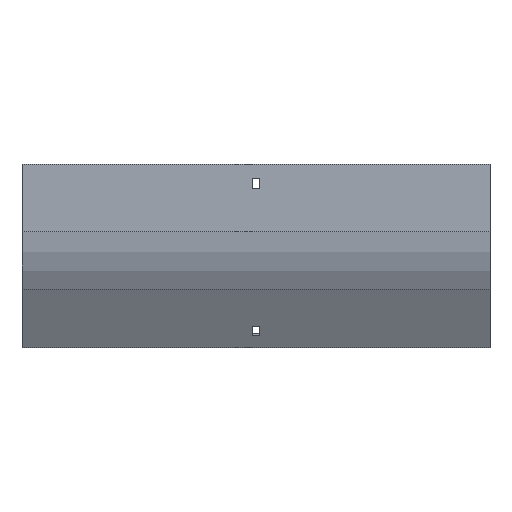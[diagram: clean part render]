
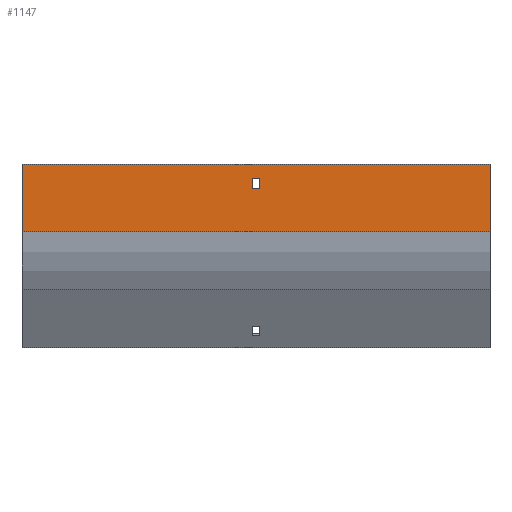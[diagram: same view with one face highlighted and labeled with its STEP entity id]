
A CAD part, front view. The second image highlights one B-rep face of the part: STEP entity #1147.
In plain terms, the highlighted planar face has unit normal (0, -1, 0).
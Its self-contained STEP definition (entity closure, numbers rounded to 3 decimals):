
#16 = DIRECTION ( 'NONE',  ( 0., 0., -1. ) ) ;
#23 = VERTEX_POINT ( 'NONE', #1641 ) ;
#24 = DIRECTION ( 'NONE',  ( 0., 1., 0. ) ) ;
#29 = CARTESIAN_POINT ( 'NONE',  ( -202., -104., -57.867 ) ) ;
#113 = LINE ( 'NONE', #1600, #847 ) ;
#115 = VERTEX_POINT ( 'NONE', #711 ) ;
#140 = VERTEX_POINT ( 'NONE', #1914 ) ;
#142 = DIRECTION ( 'NONE',  ( 1., 0., 0. ) ) ;
#171 = VECTOR ( 'NONE', #142, 1000. ) ;
#195 = VECTOR ( 'NONE', #1918, 1000. ) ;
#224 = DIRECTION ( 'NONE',  ( -1., 0., 0. ) ) ;
#269 = LINE ( 'NONE', #1289, #1802 ) ;
#284 = VERTEX_POINT ( 'NONE', #1084 ) ;
#305 = CARTESIAN_POINT ( 'NONE',  ( 202., -104., -57.867 ) ) ;
#311 = DIRECTION ( 'NONE',  ( 0., 0., 1. ) ) ;
#319 = LINE ( 'NONE', #1932, #609 ) ;
#343 = LINE ( 'NONE', #1495, #171 ) ;
#415 = VECTOR ( 'NONE', #1018, 1000. ) ;
#431 = CARTESIAN_POINT ( 'NONE',  ( 202., -104., 0. ) ) ;
#509 = ORIENTED_EDGE ( 'NONE', *, *, #781, .T. ) ;
#519 = VECTOR ( 'NONE', #16, 1000. ) ;
#551 = EDGE_CURVE ( 'NONE', #115, #23, #1749, .T. ) ;
#595 = DIRECTION ( 'NONE',  ( 0., 0., 1. ) ) ;
#609 = VECTOR ( 'NONE', #311, 1000. ) ;
#628 = VERTEX_POINT ( 'NONE', #846 ) ;
#654 = EDGE_CURVE ( 'NONE', #115, #1280, #1379, .T. ) ;
#711 = CARTESIAN_POINT ( 'NONE',  ( 202., -104., 0. ) ) ;
#747 = EDGE_LOOP ( 'NONE', ( #1149, #1179, #1635, #1421 ) ) ;
#781 = EDGE_CURVE ( 'NONE', #140, #628, #343, .T. ) ;
#788 = AXIS2_PLACEMENT_3D ( 'NONE', #1659, #24, #595 ) ;
#836 = CARTESIAN_POINT ( 'NONE',  ( 3.25, -104., -21. ) ) ;
#846 = CARTESIAN_POINT ( 'NONE',  ( 3.25, -104., -12. ) ) ;
#847 = VECTOR ( 'NONE', #1321, 1000. ) ;
#897 = ORIENTED_EDGE ( 'NONE', *, *, #960, .T. ) ;
#960 = EDGE_CURVE ( 'NONE', #628, #998, #1756, .T. ) ;
#971 = CARTESIAN_POINT ( 'NONE',  ( 202., -104., -57.867 ) ) ;
#972 = EDGE_CURVE ( 'NONE', #23, #1561, #113, .T. ) ;
#998 = VERTEX_POINT ( 'NONE', #1900 ) ;
#1018 = DIRECTION ( 'NONE',  ( 0., 0., -1. ) ) ;
#1047 = ORIENTED_EDGE ( 'NONE', *, *, #1510, .T. ) ;
#1058 = FACE_BOUND ( 'NONE', #1879, .T. ) ;
#1084 = CARTESIAN_POINT ( 'NONE',  ( -3.25, -104., -21. ) ) ;
#1147 = ADVANCED_FACE ( 'NONE', ( #1058, #1942 ), #1218, .F. ) ;
#1149 = ORIENTED_EDGE ( 'NONE', *, *, #972, .T. ) ;
#1171 = DIRECTION ( 'NONE',  ( -1., 0., 0. ) ) ;
#1179 = ORIENTED_EDGE ( 'NONE', *, *, #1774, .F. ) ;
#1218 = PLANE ( 'NONE',  #788 ) ;
#1267 = VECTOR ( 'NONE', #224, 1000. ) ;
#1280 = VERTEX_POINT ( 'NONE', #971 ) ;
#1289 = CARTESIAN_POINT ( 'NONE',  ( 202., -104., -57.867 ) ) ;
#1321 = DIRECTION ( 'NONE',  ( 0., 0., -1. ) ) ;
#1379 = LINE ( 'NONE', #305, #519 ) ;
#1421 = ORIENTED_EDGE ( 'NONE', *, *, #551, .T. ) ;
#1495 = CARTESIAN_POINT ( 'NONE',  ( -3.25, -104., -12. ) ) ;
#1510 = EDGE_CURVE ( 'NONE', #284, #140, #319, .T. ) ;
#1561 = VERTEX_POINT ( 'NONE', #29 ) ;
#1575 = CARTESIAN_POINT ( 'NONE',  ( -3.25, -104., -21. ) ) ;
#1600 = CARTESIAN_POINT ( 'NONE',  ( -202., -104., -57.867 ) ) ;
#1635 = ORIENTED_EDGE ( 'NONE', *, *, #654, .F. ) ;
#1641 = CARTESIAN_POINT ( 'NONE',  ( -202., -104., 0. ) ) ;
#1659 = CARTESIAN_POINT ( 'NONE',  ( 202., -104., -57.867 ) ) ;
#1749 = LINE ( 'NONE', #431, #195 ) ;
#1756 = LINE ( 'NONE', #836, #415 ) ;
#1774 = EDGE_CURVE ( 'NONE', #1280, #1561, #269, .T. ) ;
#1802 = VECTOR ( 'NONE', #1171, 1000. ) ;
#1811 = EDGE_CURVE ( 'NONE', #998, #284, #1891, .T. ) ;
#1879 = EDGE_LOOP ( 'NONE', ( #1936, #1047, #509, #897 ) ) ;
#1891 = LINE ( 'NONE', #1575, #1267 ) ;
#1900 = CARTESIAN_POINT ( 'NONE',  ( 3.25, -104., -21. ) ) ;
#1914 = CARTESIAN_POINT ( 'NONE',  ( -3.25, -104., -12. ) ) ;
#1918 = DIRECTION ( 'NONE',  ( -1., 0., 0. ) ) ;
#1932 = CARTESIAN_POINT ( 'NONE',  ( -3.25, -104., -21. ) ) ;
#1936 = ORIENTED_EDGE ( 'NONE', *, *, #1811, .T. ) ;
#1942 = FACE_OUTER_BOUND ( 'NONE', #747, .T. ) ;
